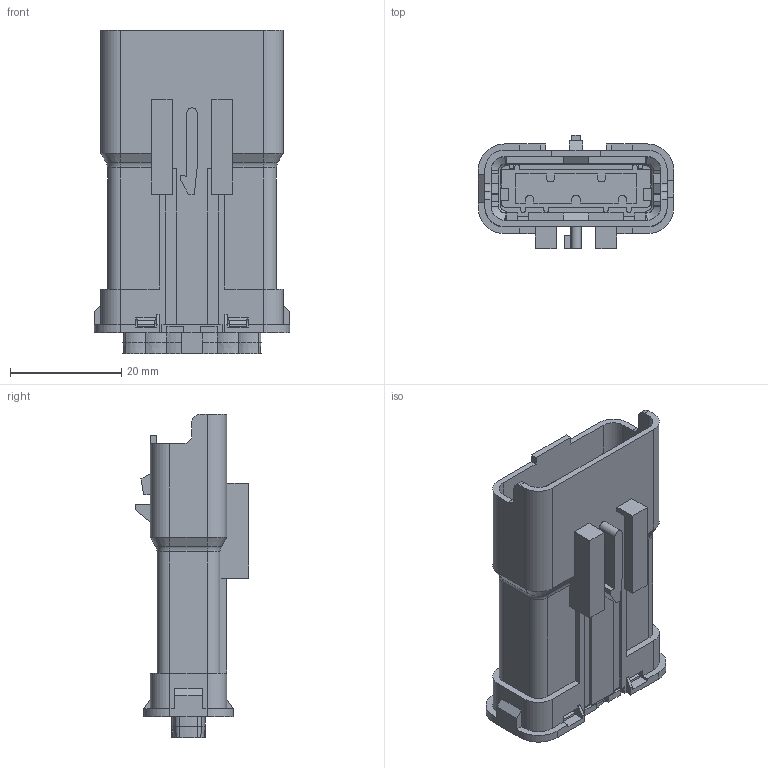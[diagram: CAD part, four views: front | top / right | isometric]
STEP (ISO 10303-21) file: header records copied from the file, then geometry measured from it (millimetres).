
FILE_DESCRIPTION(/* description */ (''),/* implementation_level */ '2;1');
FILE_NAME(/* name */ '33502277_ENV10_01.stp',/* time_stamp */ '2020-07-09T21:36:02+05:00',/* author */ (''),/* organization */ (''),/* preprocessor_version */ 'ST-DEVELOPER v16',/* originating_system */ 'SIEMENS PLM Software NX 11.0',/* authorisation */ '');
FILE_SCHEMA (('AP203_CONFIGURATION_CONTROLLED_3D_DESIGN_OF_MECHANICAL_PARTS_AND_ASSEMBLIES_MIM_LF { 1 0 10303 403 2 1 2}'));
Length unit declared in the file: millimetre
Products named in the file (1): qzs53380227A7l8b
Bounding box: 35.13 x 20.35 x 58.05 mm (x, y, z)
Volume: 15489.2 mm3; surface area: 9049.4 mm2
Topology: 1 solids, 1 shells, 516 faces, 1481 edges, 961 vertices
Faces by surface type: plane 387, cylinder 79, cone 26, torus 20, bspline 4
Entity records: 17641 total; most frequent: CARTESIAN_POINT 3973, ORIENTED_EDGE 2962, DIRECTION 2664, EDGE_CURVE 1481, LINE 1194, VECTOR 1194, VERTEX_POINT 961, AXIS2_PLACEMENT_3D 735
